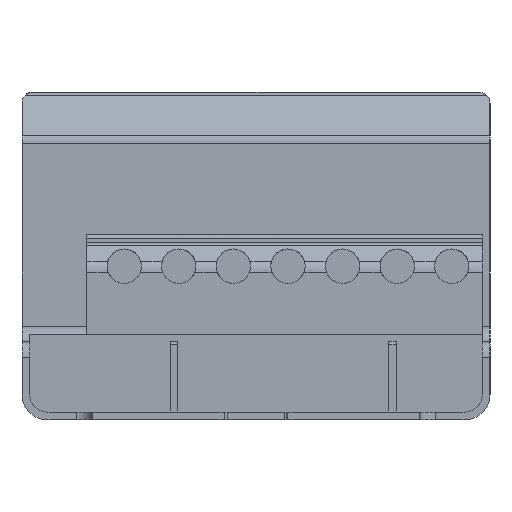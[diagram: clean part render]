
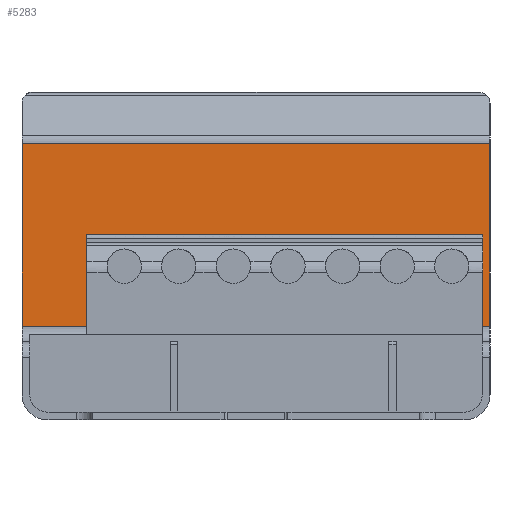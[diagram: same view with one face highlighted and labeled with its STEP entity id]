
A CAD part, left-side view. The second image highlights one B-rep face of the part: STEP entity #5283.
In plain terms, the highlighted planar face has unit normal (-1, 0, 0).
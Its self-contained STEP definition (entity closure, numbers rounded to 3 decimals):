
#1342=DIRECTION('',(0.,-1.,0.));
#1343=VECTOR('',#1342,30.);
#1344=CARTESIAN_POINT('',(23.3,15.,6.));
#1345=LINE('',#1344,#1343);
#2044=DIRECTION('',(0.,0.,1.));
#2045=VECTOR('',#2044,11.71);
#2046=CARTESIAN_POINT('',(23.3,15.,6.));
#2047=LINE('',#2046,#2045);
#2048=DIRECTION('',(0.,-1.,0.));
#2049=VECTOR('',#2048,30.);
#2050=CARTESIAN_POINT('',(23.3,15.,17.71));
#2051=LINE('',#2050,#2049);
#2052=DIRECTION('',(0.,0.,-1.));
#2053=VECTOR('',#2052,11.71);
#2054=CARTESIAN_POINT('',(23.3,-15.,17.71));
#2055=LINE('',#2054,#2053);
#2800=CARTESIAN_POINT('',(23.3,15.,17.71));
#2801=CARTESIAN_POINT('',(23.3,-15.,17.71));
#2802=VERTEX_POINT('',#2800);
#2803=VERTEX_POINT('',#2801);
#2908=CARTESIAN_POINT('',(23.3,-15.,6.));
#2909=VERTEX_POINT('',#2908);
#2910=CARTESIAN_POINT('',(23.3,15.,6.));
#2911=VERTEX_POINT('',#2910);
#5271=CARTESIAN_POINT('',(23.3,15.,5.45));
#5272=DIRECTION('',(-1.,0.,0.));
#5273=DIRECTION('',(0.,0.,1.));
#5274=AXIS2_PLACEMENT_3D('',#5271,#5272,#5273);
#5275=PLANE('',#5274);
#5276=ORIENTED_EDGE('',*,*,#4563,.F.);
#5277=ORIENTED_EDGE('',*,*,#3001,.T.);
#5279=ORIENTED_EDGE('',*,*,#5278,.T.);
#5280=ORIENTED_EDGE('',*,*,#3181,.T.);
#5281=EDGE_LOOP('',(#5276,#5277,#5279,#5280));
#5282=FACE_OUTER_BOUND('',#5281,.F.);
#5283=ADVANCED_FACE('',(#5282),#5275,.T.);
#3001=EDGE_CURVE('',#2911,#2802,#2047,.T.);
#3181=EDGE_CURVE('',#2803,#2909,#2055,.T.);
#4563=EDGE_CURVE('',#2911,#2909,#1345,.T.);
#5278=EDGE_CURVE('',#2802,#2803,#2051,.T.);
